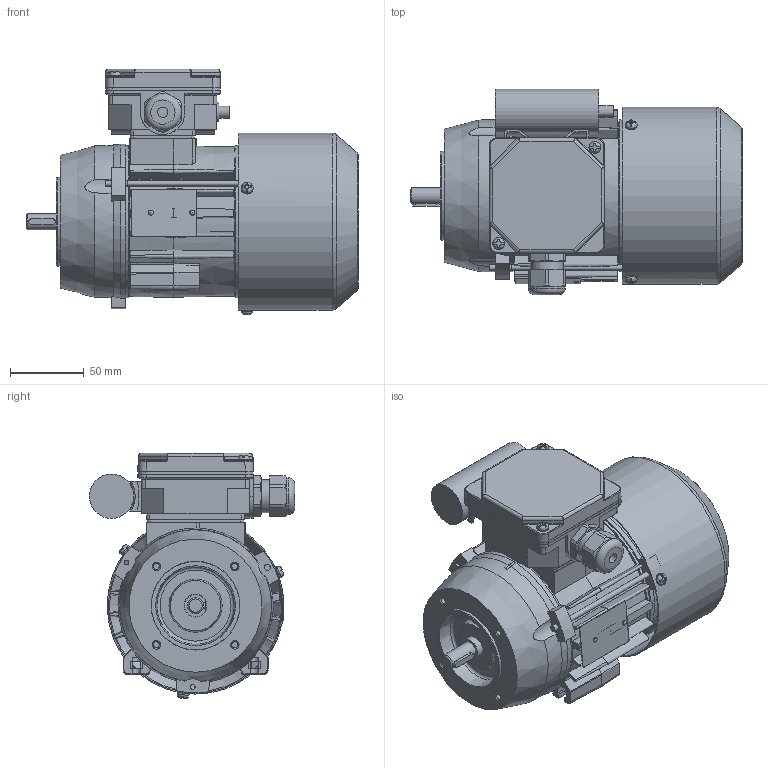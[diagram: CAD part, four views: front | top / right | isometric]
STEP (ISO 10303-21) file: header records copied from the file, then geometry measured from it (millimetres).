
FILE_DESCRIPTION( ( 'Unknown' ), '1' );
FILE_NAME( 'G:/Poczta Tk-1/STP/w.m.63/SEh63/SE(M)Kh63-C2.stp', 'Unknown', ( 'K. Szlosek' ), ( 'BESEL S.A.' ), 'PSStep 17.0.49', 'Unknown', ' ' );
FILE_SCHEMA( ( 'AUTOMOTIVE_DESIGN { 1 0 10303 214 1 1 1 1 }' ) );
Length unit declared in the file: millimetre
Products named in the file (32): Assem1; K3-9973 Kadłub ze stojanem wykończonym Sh63-C; K3-5320 Tarcza łożyskowa P Sg63; K4-2320 Uszczelka nr 1 Sh71,80; Wpust A4x4x18; K3-5321 osłona przewietrznika Sg63; K4-2820 Uszczelka nr 2 Sh71,80; K2-0860 Pokrywka skrzynki zaciskowej; Wkręt samogwintujący M4x16; K4-0898 Tulejka uszczelniająca; Kondensator zb 8-10uF; K2-1769 Przewietrznik Sg63; Wkręt samogwintujący M4x8; K3-9974 wał Sh63-C standard; K3-9440 Podstawa  skrzynki zaciskowej SEhR71-D; K3-1974 Uchwyt kondensatora (mały); K1-1112 Tarcza kołnierzowa B14_2 SKg63-..2; Nitokołek A 2x6; Dławnica M20x1,5; Łożysko 6202; Śruba ściągająca E_M4x100; Tabliczka znamionowa 32x44
Assembly tree (46 placements, depth 2):
  Assem1
    K3-9973 Kadłub ze stojanem wykończonym Sh63-C
    K3-5320 Tarcza łożyskowa P Sg63
    K4-2320 Uszczelka nr 1 Sh71,80
    Wpust A4x4x18
    K3-5321 osłona przewietrznika Sg63
    K4-2820 Uszczelka nr 2 Sh71,80
    K2-0860 Pokrywka skrzynki zaciskowej
    Wkręt samogwintujący M4x16  x2
    K4-0898 Tulejka uszczelniająca
    Kondensator zb 8-10uF
    K2-1769 Przewietrznik Sg63
    Wkręt samogwintujący M4x8  x3
    K3-9974 wał Sh63-C standard
    K3-9440 Podstawa  skrzynki zaciskowej SEhR71-D
    K3-1974 Uchwyt kondensatora (mały)
    K1-1112 Tarcza kołnierzowa B14_2 SKg63-..2
    Nitokołek A 2x6  x2
    Dławnica M20x1,5
    Łożysko 6202  x2
    Łożysko 6202  x2
    Łożysko 6202  x2
    Łożysko 6202  x2
    Łożysko 6202  x2
    Łożysko 6202  x2
    Łożysko 6202  x2
    Łożysko 6202  x2
    Łożysko 6202  x2
    Łożysko 6202  x2
    Łożysko 6202  x2
    Śruba ściągająca E_M4x100
    Tabliczka znamionowa 32x44
Bounding box: 224.5 x 138.82 x 165.9 mm (x, y, z)
Volume: 554658.6 mm3; surface area: 358750.8 mm2
Topology: 46 solids, 64 shells, 1896 faces, 5213 edges, 3386 vertices
Faces by surface type: plane 937, cylinder 560, cone 142, torus 120, bspline 98, sphere 39
Full cylindrical faces by diameter (mm): 2 x2, 2.4 x2, 3 x1, 3.242 x3, 3.5 x2, 3.7 x8, 4 x6, 4.134 x4, 4.5 x4, 4.6 x1, 4.8 x4, 5 x4, 6.5 x1, 7 x2, 8 x7, 10 x2, 11 x1, 12.9 x1, 13.1 x1, 13.5 x1, 15 x4, 15.4 x2, 18.38 x1, 18.5 x1, 19 x2, 19.5 x1, 20 x2, 20.1 x1, 21.52 x4, 22.3 x1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
Entity records: 82915 total; most frequent: CARTESIAN_POINT 26206, ORIENTED_EDGE 9054, DIRECTION 8692, EDGE_CURVE 4527, AXIS2_PLACEMENT_3D 3245, VERTEX_POINT 3091, LINE 2202, VECTOR 2202
